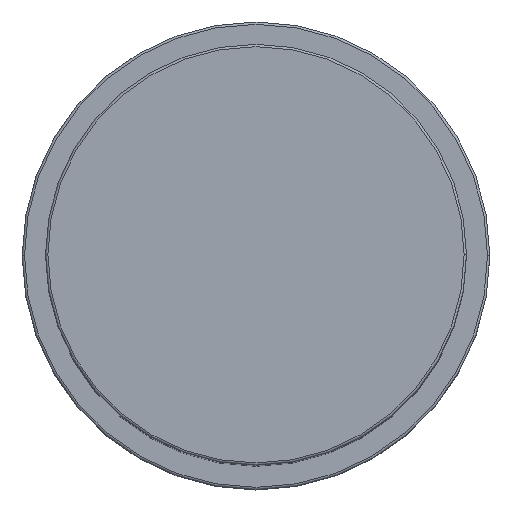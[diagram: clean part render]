
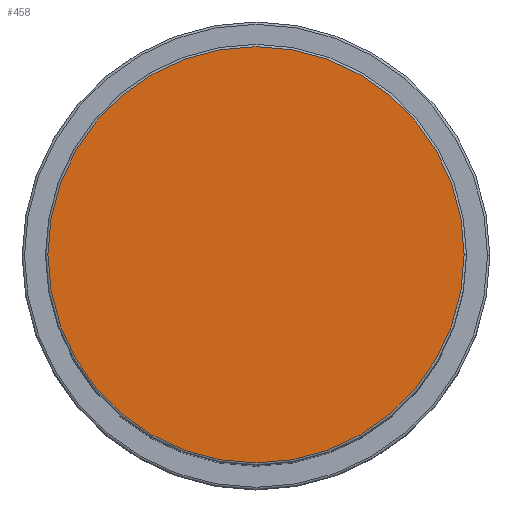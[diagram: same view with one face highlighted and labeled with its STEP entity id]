
A CAD part, top view. The second image highlights one B-rep face of the part: STEP entity #458.
In plain terms, the highlighted planar face has unit normal (0, 0, 1).
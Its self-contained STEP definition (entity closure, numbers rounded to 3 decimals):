
#85 = CIRCLE ( 'NONE', #1575, 44.5 ) ;
#458 = ADVANCED_FACE ( 'NONE', ( #778 ), #562, .T. ) ;
#474 = DIRECTION ( 'NONE',  ( 0., 0., 1. ) ) ;
#480 = ORIENTED_EDGE ( 'NONE', *, *, #1041, .T. ) ;
#562 = PLANE ( 'NONE',  #677 ) ;
#569 = VERTEX_POINT ( 'NONE', #1452 ) ;
#608 = CARTESIAN_POINT ( 'NONE',  ( 0., 0., 149. ) ) ;
#677 = AXIS2_PLACEMENT_3D ( 'NONE', #1705, #1306, #1161 ) ;
#753 = DIRECTION ( 'NONE',  ( 0., 0., 1. ) ) ;
#778 = FACE_OUTER_BOUND ( 'NONE', #1367, .T. ) ;
#995 = ORIENTED_EDGE ( 'NONE', *, *, #1542, .T. ) ;
#1041 = EDGE_CURVE ( 'NONE', #1239, #569, #85, .T. ) ;
#1161 = DIRECTION ( 'NONE',  ( 1., 0., 0. ) ) ;
#1221 = CARTESIAN_POINT ( 'NONE',  ( -44.5, 0., 149. ) ) ;
#1239 = VERTEX_POINT ( 'NONE', #1221 ) ;
#1274 = AXIS2_PLACEMENT_3D ( 'NONE', #608, #753, #1456 ) ;
#1306 = DIRECTION ( 'NONE',  ( 0., 0., 1. ) ) ;
#1350 = CIRCLE ( 'NONE', #1274, 44.5 ) ;
#1367 = EDGE_LOOP ( 'NONE', ( #995, #480 ) ) ;
#1423 = CARTESIAN_POINT ( 'NONE',  ( 0., 0., 149. ) ) ;
#1452 = CARTESIAN_POINT ( 'NONE',  ( 44.5, 0., 149. ) ) ;
#1456 = DIRECTION ( 'NONE',  ( 1., 0., 0. ) ) ;
#1542 = EDGE_CURVE ( 'NONE', #569, #1239, #1350, .T. ) ;
#1575 = AXIS2_PLACEMENT_3D ( 'NONE', #1423, #474, #1577 ) ;
#1577 = DIRECTION ( 'NONE',  ( 1., 0., 0. ) ) ;
#1705 = CARTESIAN_POINT ( 'NONE',  ( 0., 0., 149. ) ) ;
